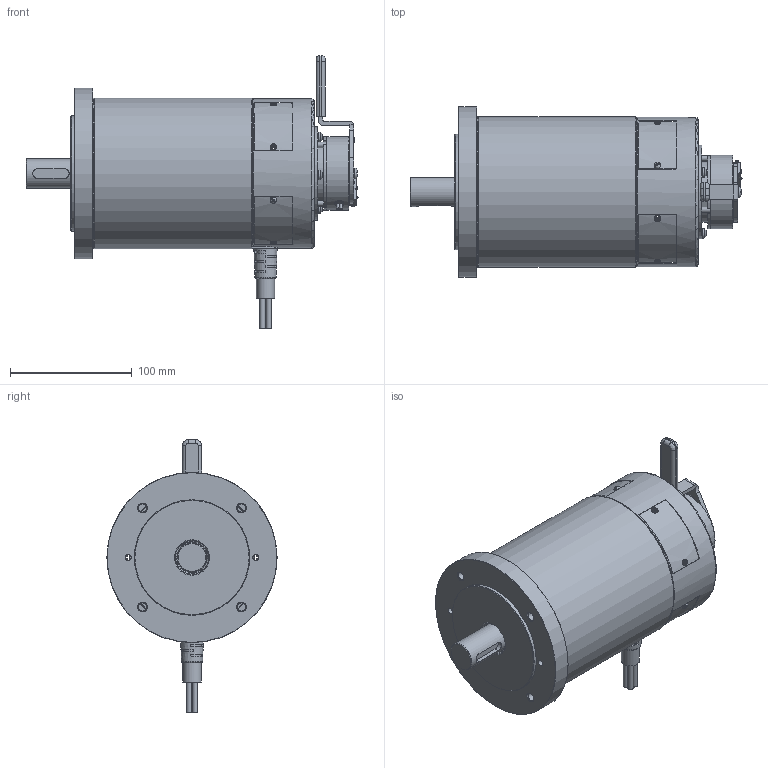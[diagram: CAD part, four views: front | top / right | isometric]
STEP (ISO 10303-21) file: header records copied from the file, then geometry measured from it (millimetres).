
FILE_DESCRIPTION (( 'STEP AP214' ), '1' );
FILE_NAME ('DC124M,MBrake,A24x40_3D-02-S0468.STEP', '2019-08-26T05:29:30', ( '' ), ( '' ), 'SwSTEP 2.0', 'SolidWorks 2016', '' );
FILE_SCHEMA (( 'AUTOMOTIVE_DESIGN' ));
Length unit declared in the file: millimetre
Products named in the file (1): DC124M,MBrake,A24x40_3D-02-S0468
Bounding box: 273.1 x 140 x 224.4 mm (x, y, z)
Surface area: 197625.7 mm2 (no closed solid volume)
Topology: 0 solids, 43 shells, 408 faces, 1375 edges, 983 vertices
Faces by surface type: plane 217, cylinder 131, cone 30, bspline 26, torus 4
Full cylindrical faces by diameter (mm): 1.5 x1, 1.8 x2, 3 x2, 4 x1, 4.5 x10, 4.773 x1, 5 x2, 5.5 x8, 6.8 x4, 7.5 x1, 9 x1, 11 x2, 13.054 x1, 15 x1, 23.8 x1, 24 x1, 28 x1, 50 x1, 60.3 x1, 76.8 x1, 95 x1, 113 x1, 122.8 x1, 124 x2, 140 x1
Entity records: 19730 total; most frequent: CARTESIAN_POINT 9189, DIRECTION 1963, ORIENTED_EDGE 1943, EDGE_CURVE 1228, VERTEX_POINT 941, AXIS2_PLACEMENT_3D 698, VECTOR 567, LINE 567
